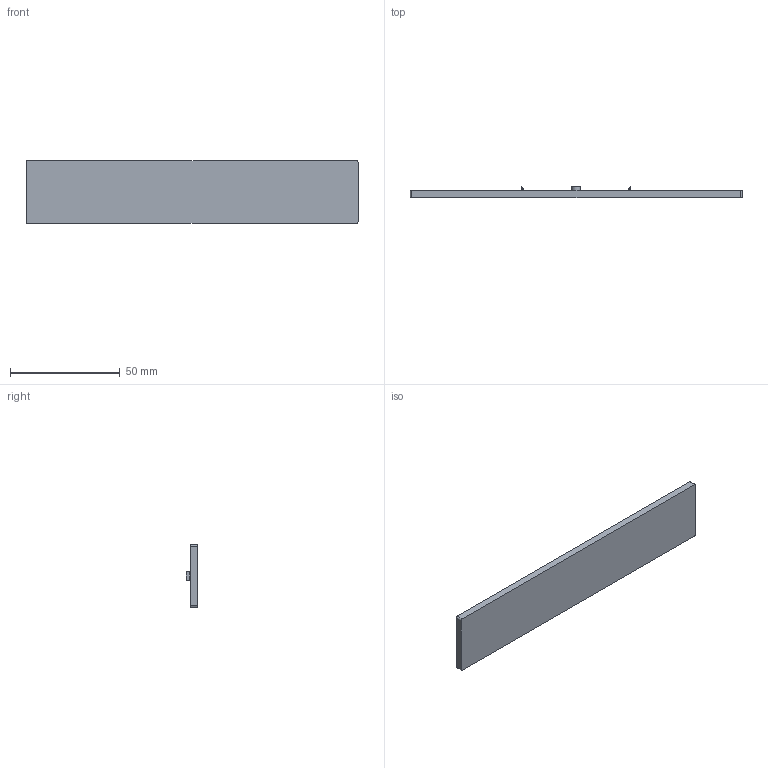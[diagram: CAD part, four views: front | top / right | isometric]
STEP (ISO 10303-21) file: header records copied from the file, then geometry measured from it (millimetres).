
FILE_DESCRIPTION( ( '' ), '1' );
FILE_NAME( 'C:/Documents and Settings/Sachin/Desktop/Sheet 10_1/stp/9086695.stp', '2013-10-22T05:34:49', ( '' ), ( '' ), ' ', ' ', ' ' );
FILE_SCHEMA( ( 'CONFIG_CONTROL_DESIGN' ) );
Length unit declared in the file: millimetre
Products named in the file (1): 1
Bounding box: 151.5 x 5.1 x 28.7 mm (x, y, z)
Volume: 7975.9 mm3; surface area: 10507 mm2
Topology: 1 solids, 1 shells, 34 faces, 84 edges, 56 vertices
Faces by surface type: plane 24, cylinder 10
Entity records: 1052 total; most frequent: CARTESIAN_POINT 175, DIRECTION 174, ORIENTED_EDGE 168, EDGE_CURVE 84, LINE 64, VECTOR 64, VERTEX_POINT 56, AXIS2_PLACEMENT_3D 55
